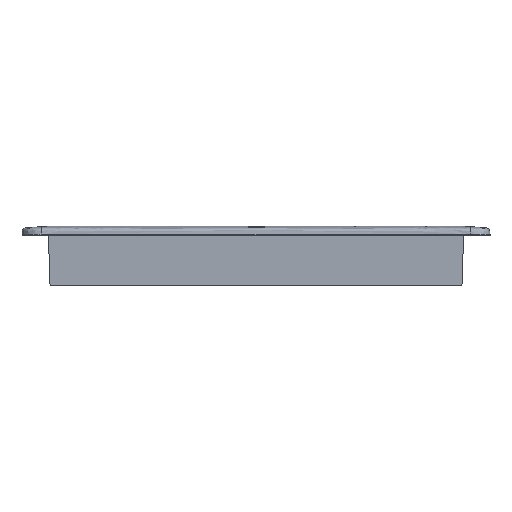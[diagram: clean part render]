
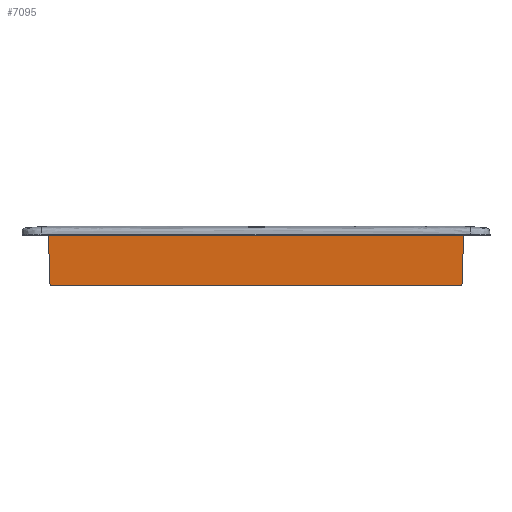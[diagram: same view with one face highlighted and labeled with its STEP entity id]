
A CAD part, front view. The second image highlights one B-rep face of the part: STEP entity #7095.
In plain terms, the highlighted planar face has unit normal (0, -1, -0.033).
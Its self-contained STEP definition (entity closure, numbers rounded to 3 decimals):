
#205 = CARTESIAN_POINT ( 'NONE',  ( -110.915, -110.915, 27. ) ) ;
#304 = DIRECTION ( 'NONE',  ( 1., 0., 0. ) ) ;
#624 = VERTEX_POINT ( 'NONE', #7019 ) ;
#1780 = EDGE_CURVE ( 'NONE', #22613, #26957, #20788, .T. ) ;
#2051 = CARTESIAN_POINT ( 'NONE',  ( -110.671, -110.671, 19.657 ) ) ;
#2275 = VECTOR ( 'NONE', #7260, 1000. ) ;
#3099 = PLANE ( 'NONE',  #22352 ) ;
#3124 = VECTOR ( 'NONE', #16400, 1000. ) ;
#5189 = VECTOR ( 'NONE', #17435, 1000. ) ;
#5951 = ORIENTED_EDGE ( 'NONE', *, *, #16930, .F. ) ;
#6005 = EDGE_CURVE ( 'NONE', #26957, #624, #15485, .T. ) ;
#7019 = CARTESIAN_POINT ( 'NONE',  ( 110.915, -110.915, 27. ) ) ;
#7095 = ADVANCED_FACE ( 'NONE', ( #23595 ), #3099, .T. ) ;
#7260 = DIRECTION ( 'NONE',  ( 1., 0., 0. ) ) ;
#8102 = CARTESIAN_POINT ( 'NONE',  ( -110.019, -110.019, -0.005 ) ) ;
#9368 = LINE ( 'NONE', #2051, #3124 ) ;
#11725 = CARTESIAN_POINT ( 'NONE',  ( 115., -110.915, 27. ) ) ;
#12001 = EDGE_CURVE ( 'NONE', #22613, #17068, #9368, .T. ) ;
#12521 = ORIENTED_EDGE ( 'NONE', *, *, #12001, .F. ) ;
#13214 = CARTESIAN_POINT ( 'NONE',  ( 110.671, -110.671, 19.657 ) ) ;
#14322 = EDGE_LOOP ( 'NONE', ( #5951, #12521, #18072, #18089 ) ) ;
#15485 = LINE ( 'NONE', #13214, #5189 ) ;
#16400 = DIRECTION ( 'NONE',  ( -0.033, -0.033, 0.999 ) ) ;
#16930 = EDGE_CURVE ( 'NONE', #17068, #624, #23100, .T. ) ;
#17068 = VERTEX_POINT ( 'NONE', #17547 ) ;
#17435 = DIRECTION ( 'NONE',  ( 0.033, -0.033, 0.999 ) ) ;
#17547 = CARTESIAN_POINT ( 'NONE',  ( -110.915, -110.915, 27. ) ) ;
#17669 = VECTOR ( 'NONE', #304, 1000. ) ;
#17706 = CARTESIAN_POINT ( 'NONE',  ( 110.019, -110.019, -0.005 ) ) ;
#18072 = ORIENTED_EDGE ( 'NONE', *, *, #1780, .T. ) ;
#18089 = ORIENTED_EDGE ( 'NONE', *, *, #6005, .T. ) ;
#20788 = LINE ( 'NONE', #20943, #17669 ) ;
#20943 = CARTESIAN_POINT ( 'NONE',  ( 0., -110.019, -0.005 ) ) ;
#22352 = AXIS2_PLACEMENT_3D ( 'NONE', #205, #25605, #27268 ) ;
#22613 = VERTEX_POINT ( 'NONE', #8102 ) ;
#23100 = LINE ( 'NONE', #11725, #2275 ) ;
#23595 = FACE_OUTER_BOUND ( 'NONE', #14322, .T. ) ;
#25605 = DIRECTION ( 'NONE',  ( 0., -0.999, -0.033 ) ) ;
#26957 = VERTEX_POINT ( 'NONE', #17706 ) ;
#27268 = DIRECTION ( 'NONE',  ( 0., 0.033, -0.999 ) ) ;
